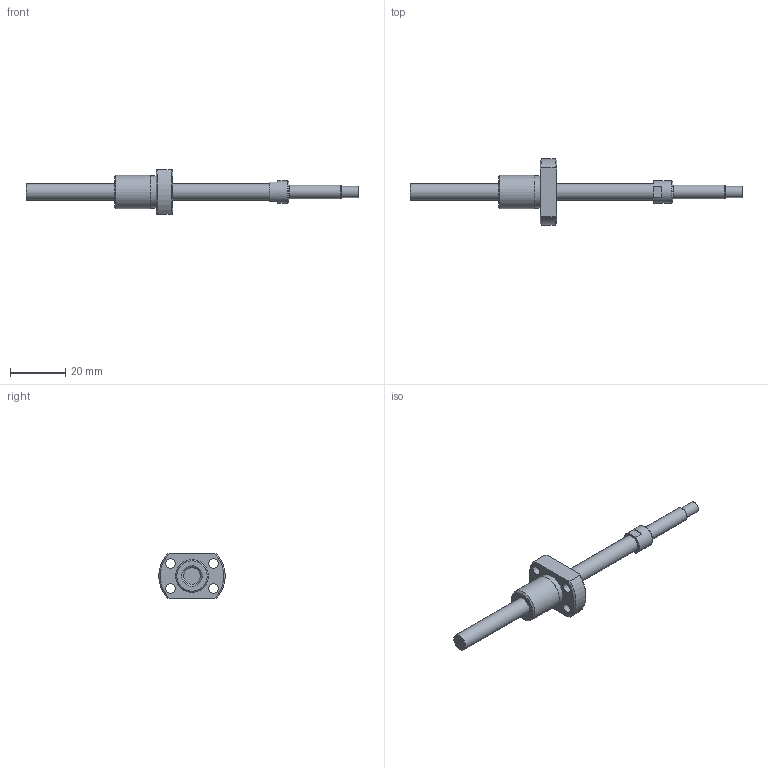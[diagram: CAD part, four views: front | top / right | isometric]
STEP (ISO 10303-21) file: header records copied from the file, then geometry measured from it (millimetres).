
FILE_DESCRIPTION(/* description */ ('STEP AP214'),/* implementation_level */ '2;1');
FILE_NAME(/* name */ 'NSGF0602Z-085R120C3-0-T-S-T-A-(32-S)',/* time_stamp */ '2026-08-24T20:04:54+02:00',/* author */ ('License CC BY-ND 4.0'),/* organization */ ('CADENAS'),/* preprocessor_version */ 'ST-DEVELOPER v20',/* originating_system */ 'PARTsolutions',/* authorisation */ ' ');
FILE_SCHEMA (('AUTOMOTIVE_DESIGN {1 0 10303 214 3 1 1}'));
Length unit declared in the file: millimetre
Products named in the file (3): NSGF0602Z-085R120C3-0-T-S-T-A-(32-S); NSG0602Z-85R120_(T-S_T-A_2)_2; NSGF0602Z-1
Assembly tree (2 placements, depth 2):
  NSGF0602Z-085R120C3-0-T-S-T-A-(32-S)
    NSG0602Z-85R120_(T-S_T-A_2)_2
    NSGF0602Z-1
Bounding box: 120 x 23.92 x 16 mm (x, y, z)
Volume: 6052.1 mm3; surface area: 4537.4 mm2
Topology: 2 solids, 2 shells, 39 faces, 85 edges, 56 vertices
Faces by surface type: plane 16, cylinder 14, cone 8, torus 1
Full cylindrical faces by diameter (mm): 3.4 x4, 4 x1, 5 x1, 6 x2, 8 x1, 10 x1, 11.7 x1, 12 x1
Entity records: 1065 total; most frequent: CARTESIAN_POINT 182, DIRECTION 180, ORIENTED_EDGE 128, AXIS2_PLACEMENT_3D 82, EDGE_LOOP 72, FACE_BOUND 72, EDGE_CURVE 64, VERTEX_POINT 52
